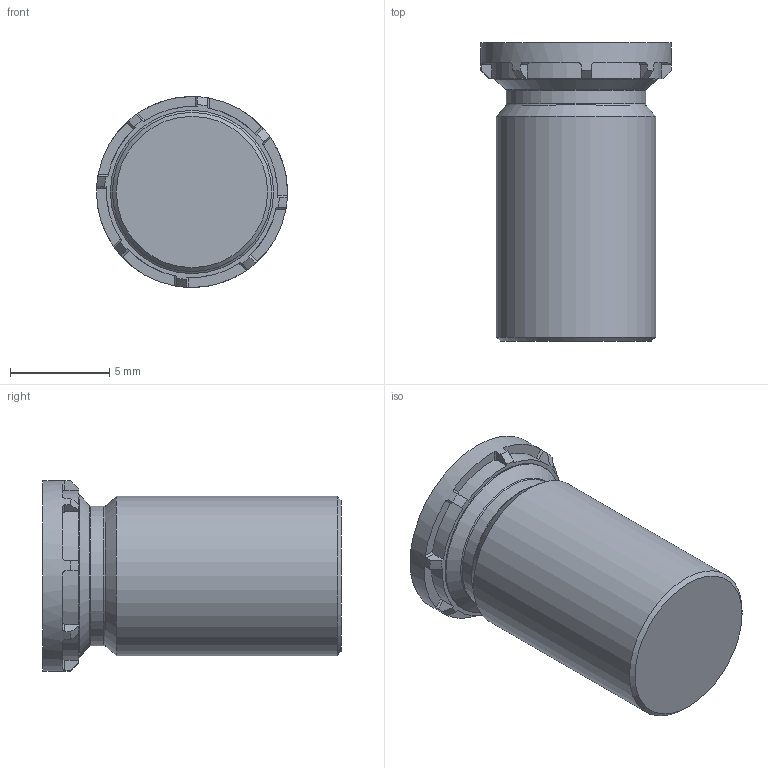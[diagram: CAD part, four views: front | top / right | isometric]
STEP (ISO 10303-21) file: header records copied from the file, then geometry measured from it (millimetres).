
FILE_DESCRIPTION(/* description */ (''),/* implementation_level */ '2;1');
FILE_NAME(/* name */ 'C:\Users\keval.kumar\Desktop\Fastit\Clinch Screw- FH Range\M8\Clinch Screw-FH Range_M8x15.stp',/* time_stamp */ '2024-03-12T12:17:48+06:00',/* author */ ('keval.kumar'),/* organization */ (''),/* preprocessor_version */ 'ST-DEVELOPER v18.1',/* originating_system */ 'Autodesk Inventor 2022',/* authorisation */ '');
FILE_SCHEMA (('AUTOMOTIVE_DESIGN { 1 0 10303 214 3 1 1 }'));
Length unit declared in the file: millimetre
Products named in the file (1): Clinch Screw-FH Range_M8x15
Bounding box: 9.6 x 15 x 9.6 mm (x, y, z)
Volume: 768.5 mm3; surface area: 533.3 mm2
Topology: 1 solids, 1 shells, 68 faces, 193 edges, 128 vertices
Faces by surface type: plane 43, cylinder 12, cone 11, torus 2
Full cylindrical faces by diameter (mm): 7 x1, 8 x1, 8.2 x1, 9.6 x1
Entity records: 2278 total; most frequent: CARTESIAN_POINT 422, DIRECTION 405, ORIENTED_EDGE 386, EDGE_CURVE 193, AXIS2_PLACEMENT_3D 159, VERTEX_POINT 128, LINE 87, VECTOR 87
